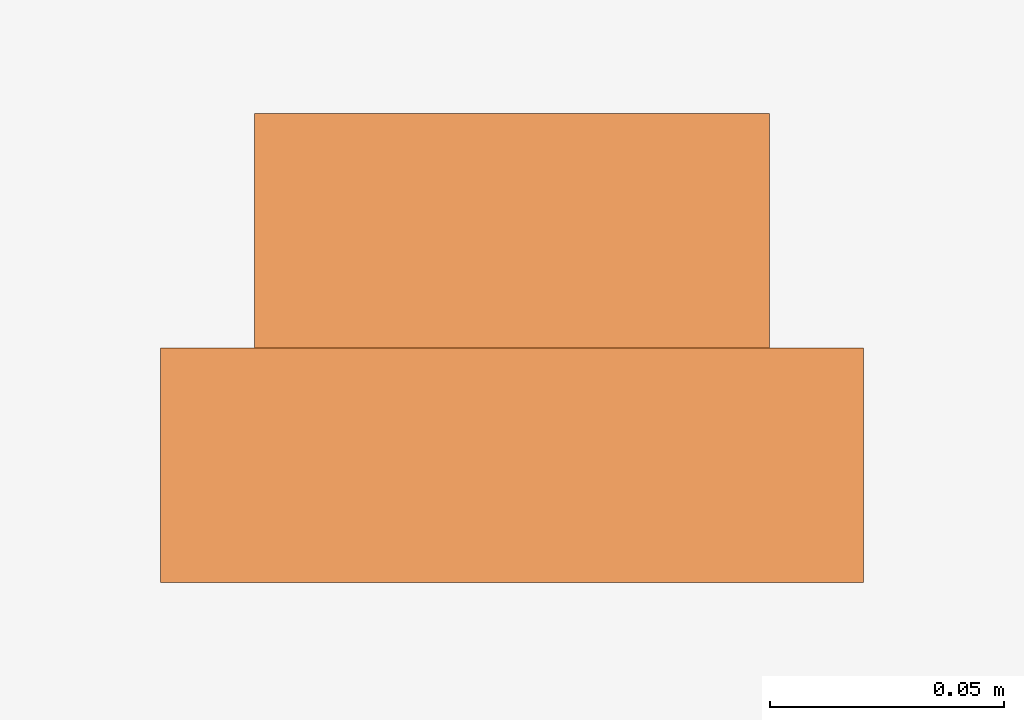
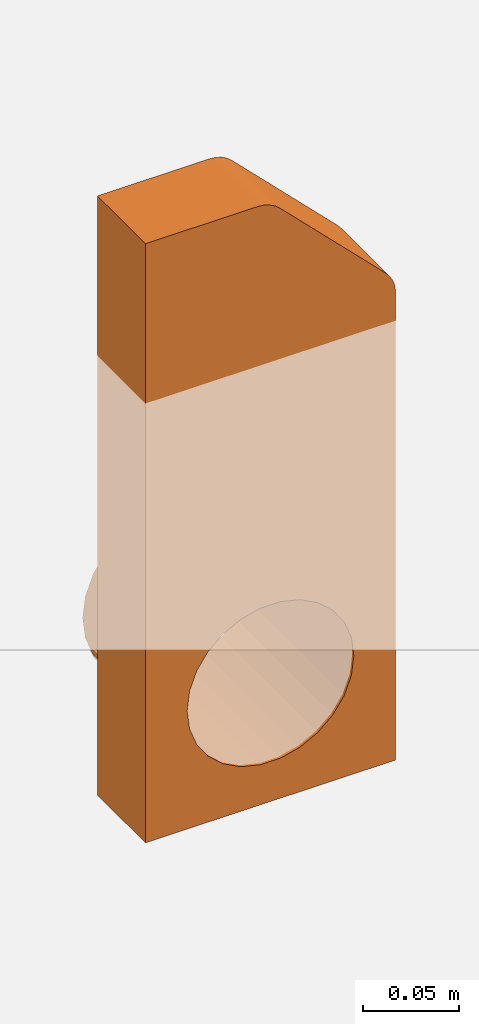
# One storey, part 2 of 2: 1 proxy.
"""IFC2X3 building model written with IfcOpenShell, lengths in millimetres."""

from ifc_helpers import new_model, entity, si_unit, converted_unit, direction, frame, frame_2d, origin, origin_2d_with_axis, place, context, subcontext, project, spatial, polyline, circle_curve, parameter, trimmed, segment, composite_curve, outline, extrude, source, transform, mapped, material, material_list, element, save


model = new_model("IFC2X3")

# Units and contexts
model_context = context("Model", 3, precision=1e-06, world=origin(), true_north=direction((2.0, 6.12303176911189e-17, 1.0)))
context_of_model = context(None, 3, precision=1e-06, world=origin(), true_north=direction((2.0, 6.12303176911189e-17, 1.0)))
body_context = subcontext(model_context, "Body", "Model", "MODEL_VIEW")
ifc_project = project(units=[si_unit("LENGTHUNIT", "METRE", prefix="MILLI"), si_unit("AREAUNIT", "SQUARE_METRE", prefix="MILLI"), si_unit("VOLUMEUNIT", "CUBIC_METRE", prefix="MILLI"), converted_unit("PLANEANGLEUNIT", "DEGREE", entity("IfcRatioMeasure", 0.0174532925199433), si_unit("PLANEANGLEUNIT", "RADIAN"), dimensions=[0, 0, 0, 0, 0, 0, 0]), si_unit("TIMEUNIT", "SECOND")], contexts=[model_context, context_of_model])

# Site, building, storey
site_placement = place(None, origin())
site = spatial("IfcSite", under=ifc_project, at=site_placement, Name="Default", CompositionType="ELEMENT")
building_placement = place(site_placement, origin())
building = spatial("IfcBuilding", under=site, at=building_placement, CompositionType="ELEMENT")
storey_placement = place(building_placement, origin())
storey = spatial("IfcBuildingStorey", under=building, at=storey_placement, Name="Level 1", CompositionType="ELEMENT", Elevation=0.0)

# Proxy
ifc_material_1 = material(Name="Orange")
ifc_material_2 = material(Name="ACO Polymer Concrete.")
ifc_material_list = material_list([ifc_material_1, ifc_material_2])
shared_shape = source(origin(), body_context, "Body", "SweptSolid", [
    extrude(outline(composite_curve([segment(trimmed(circle_curve(origin_2d_with_axis(), 55.0), [parameter(0.0)], [parameter(180.0)], True, "PARAMETER"), True, "CONTINUOUS"), segment(trimmed(circle_curve(origin_2d_with_axis(), 55.0), [parameter(180.0)], [parameter(360.0)], True, "PARAMETER"), True, "CONTINUOUS")], self_intersect=False), holes=[composite_curve([segment(trimmed(circle_curve(origin_2d_with_axis(), 50.0), [parameter(180.000000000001)], [parameter(5.5977762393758e-13)], True, "PARAMETER"), False, "CONTINUOUS"), segment(trimmed(circle_curve(origin_2d_with_axis(), 50.0), [parameter(5.08888749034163e-13)], [parameter(180.0)], True, "PARAMETER"), False, "CONTINUOUS")], self_intersect=False)]), frame((0.0, 50.0, -204.99343981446), z_axis=(0.0, 1.0, 0.0), x_axis=(-1.0, 0.0, 0.0)), (0.0, 0.0, 1.0), 50.0),
    extrude(outline(composite_curve([segment(polyline([(-48.2542362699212, -65.410008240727), (248.875706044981, -65.410008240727)]), True, "CONTINUOUS"), segment(polyline([(248.875706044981, -65.410008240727), (248.875706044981, 84.5899917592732)]), True, "CONTINUOUS"), segment(polyline([(248.875706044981, 84.5899917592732), (-131.12429395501, 84.5899917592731)]), True, "CONTINUOUS"), segment(polyline([(-131.12429395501, 84.5899917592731), (-131.12429395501, 17.4600494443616)]), True, "CONTINUOUS"), segment(trimmed(circle_curve(frame_2d((-112.12429395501, 17.4600494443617), x_axis=(0.0, -1.0)), 19.0), [parameter(270.0)], [parameter(315.0)], True, "PARAMETER"), True, "CONTINUOUS"), segment(polyline([(-125.559322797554, 4.02502060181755), (-61.6892651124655, -59.8450370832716)]), True, "CONTINUOUS"), segment(trimmed(circle_curve(frame_2d((-48.2542362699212, -46.410008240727), x_axis=(0.0, -1.0)), 19.0), [parameter(315.000000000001)], [parameter(5.08888749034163e-13)], True, "PARAMETER"), True, "CONTINUOUS")], self_intersect=False), holes=[composite_curve([segment(trimmed(circle_curve(frame_2d((173.869145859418, 9.58999175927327), x_axis=(0.0, -1.0)), 50.0), [parameter(180.0)], [parameter(360.0)], True, "PARAMETER"), False, "CONTINUOUS"), segment(trimmed(circle_curve(frame_2d((173.869145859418, 9.58999175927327), x_axis=(0.0, -1.0)), 50.0), [parameter(0.0)], [parameter(180.0)], True, "PARAMETER"), False, "CONTINUOUS")], self_intersect=False)]), frame((9.58999175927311, 0.0, -31.1242939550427), z_axis=(0.0, 1.0, 0.0), x_axis=(0.0, 0.0, -1.0)), (0.0, 0.0, 1.0), 50.0),
])
proxy_placement = place(storey_placement, frame((-13330.2750822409, -1412.72179195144, 0.0)))
element("IfcBuildingElementProxy", 1, at=proxy_placement, inside=storey, material=ifc_material_list, Name="Civil-Drainage-Channel-ACO-KerbDrain-SP380:4247 - LH inlet/outlet end cap:4247 - LH inlet/outlet end cap", ObjectType="4247 - LH inlet/outlet end cap", CompositionType="ELEMENT", context=body_context, shape_type="MappedRepresentation", body=[
    mapped(shared_shape, transform((0.0, 0.0, 0.0), scale=1.0)),
])

save(model, "model.ifc")
